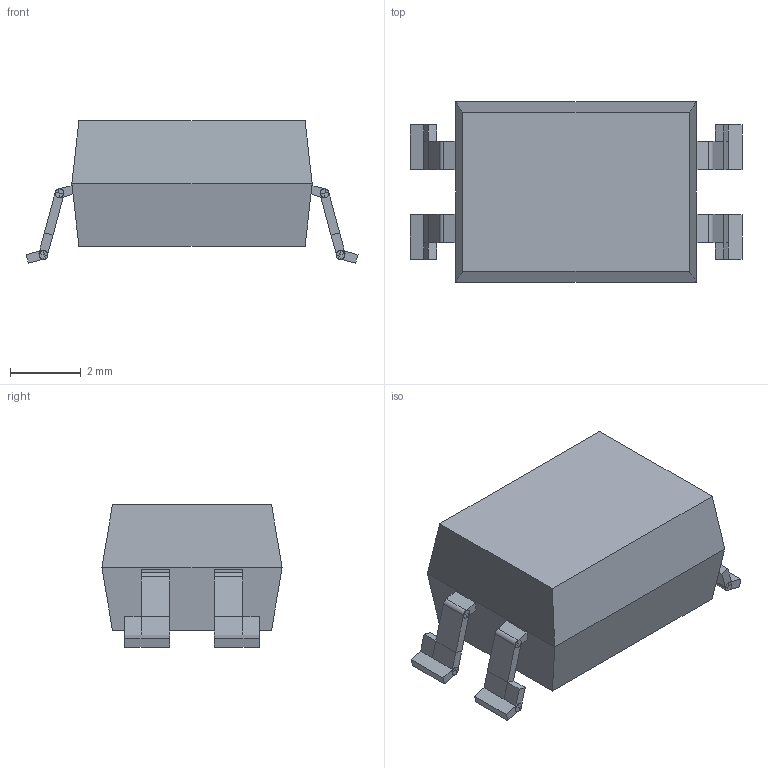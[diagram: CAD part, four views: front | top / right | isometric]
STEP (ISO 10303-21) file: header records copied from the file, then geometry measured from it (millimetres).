
FILE_DESCRIPTION(('FreeCAD Model'),'2;1');
FILE_NAME('Open CASCADE Shape Model','2023-12-05T23:37:40',('Author'),( ''),'Open CASCADE STEP processor 7.6','FreeCAD','Unknown');
FILE_SCHEMA(('AUTOMOTIVE_DESIGN { 1 0 10303 214 1 1 1 1 }'));
Length unit declared in the file: millimetre
Products named in the file (1): Group
Bounding box: 9.4 x 5.1 x 4.03 mm (x, y, z)
Volume: 115.2 mm3; surface area: 166.6 mm2
Topology: 1 solids, 1 shells, 178 faces, 424 edges, 252 vertices
Faces by surface type: plane 170, cylinder 8
Entity records: 11922 total; most frequent: CARTESIAN_POINT 2203, DIRECTION 1570, LINE 980, VECTOR 980, ORIENTED_EDGE 848, PCURVE 848, DEFINITIONAL_REPRESENTATION 848, EDGE_CURVE 424
